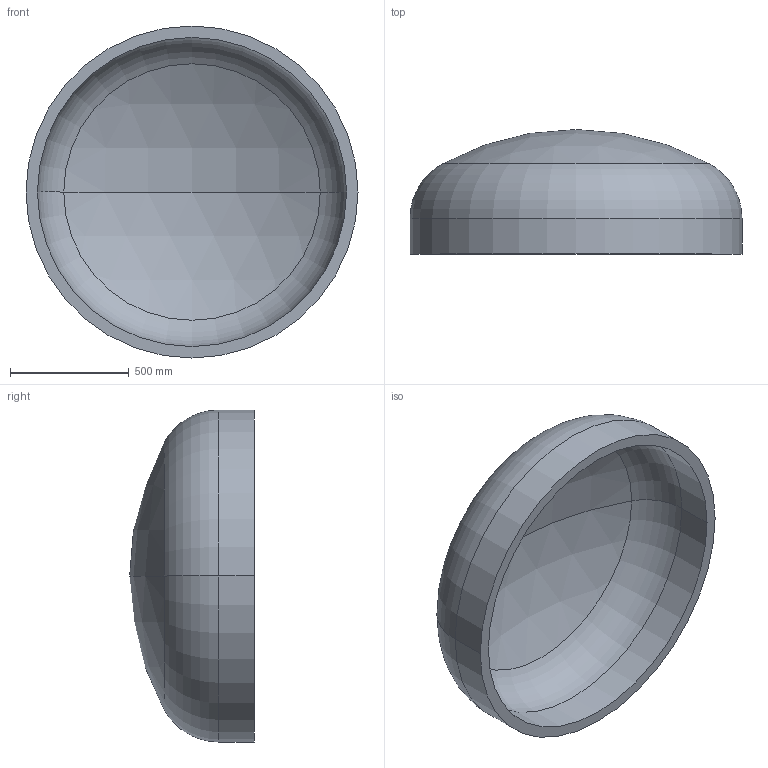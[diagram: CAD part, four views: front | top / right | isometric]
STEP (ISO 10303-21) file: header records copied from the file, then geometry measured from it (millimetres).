
FILE_DESCRIPTION (( 'STEP AP203' ), '1' );
FILE_NAME ('DIN 28013 Korbbogenform_-_Boden DIN 28013 - 1400 x 150 - I - s=48.step', '2016-07-01T10:20:02', ( '' ), ( '' ), 'SwSTEP 2.0', 'SolidWorks 2013', '' );
FILE_SCHEMA (( 'CONFIG_CONTROL_DESIGN' ));
Length unit declared in the file: millimetre
Products named in the file (1): DIN 28013 Korbbogenform_-_Boden DIN 28013 - 1400 x 150 - I - s=48
Bounding box: 1400 x 525.5 x 1400 mm (x, y, z)
Volume: 128396248.6 mm3; surface area: 5558544.6 mm2
Topology: 1 solids, 1 shells, 13 faces, 24 edges, 14 vertices
Faces by surface type: torus 4, cylinder 4, sphere 4, plane 1
Entity records: 407 total; most frequent: DIRECTION 72, CARTESIAN_POINT 52, ORIENTED_EDGE 48, AXIS2_PLACEMENT_3D 34, EDGE_CURVE 24, CIRCLE 20, EDGE_LOOP 14, VERTEX_POINT 14
